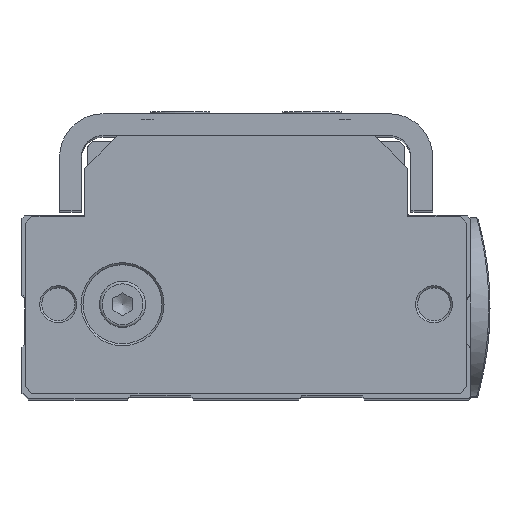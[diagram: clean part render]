
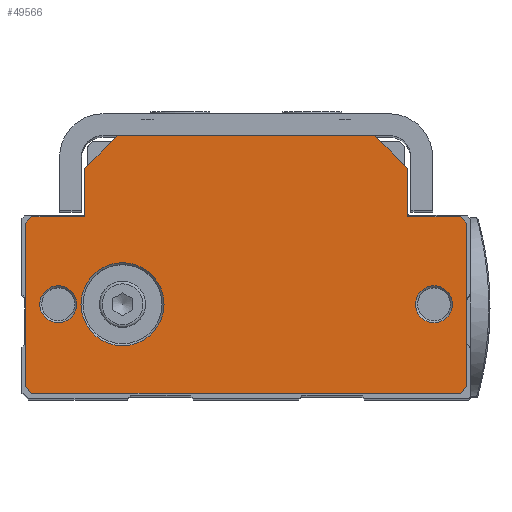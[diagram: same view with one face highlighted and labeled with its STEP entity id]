
A CAD part, top view. The second image highlights one B-rep face of the part: STEP entity #49566.
In plain terms, the highlighted planar face has unit normal (0, 0, 1).
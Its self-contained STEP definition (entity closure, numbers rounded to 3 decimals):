
#3969=FACE_BOUND('',#10539,.T.);
#3970=FACE_BOUND('',#10540,.T.);
#3971=FACE_BOUND('',#10541,.T.);
#5111=PLANE('',#54315);
#7667=FACE_OUTER_BOUND('',#10538,.T.);
#10538=EDGE_LOOP('',(#46175,#46176,#46177,#46178,#46179,#46180,#46181,#46182,
#46183,#46184,#46185,#46186,#46187,#46188));
#10539=EDGE_LOOP('',(#46189,#46190));
#10540=EDGE_LOOP('',(#46191,#46192));
#10541=EDGE_LOOP('',(#46193,#46194));
#14258=LINE('',#99717,#17994);
#14260=LINE('',#99721,#17996);
#14263=LINE('',#99727,#17999);
#14264=LINE('',#99729,#18000);
#14265=LINE('',#99731,#18001);
#14266=LINE('',#99733,#18002);
#14267=LINE('',#99735,#18003);
#14268=LINE('',#99737,#18004);
#14269=LINE('',#99739,#18005);
#14270=LINE('',#99741,#18006);
#14271=LINE('',#99743,#18007);
#14272=LINE('',#99745,#18008);
#14273=LINE('',#99747,#18009);
#14274=LINE('',#99748,#18010);
#17994=VECTOR('',#66730,10.);
#17996=VECTOR('',#66734,1000.);
#17999=VECTOR('',#66739,1000.);
#18000=VECTOR('',#66740,10.);
#18001=VECTOR('',#66741,1000.);
#18002=VECTOR('',#66742,1000.);
#18003=VECTOR('',#66743,1000.);
#18004=VECTOR('',#66744,1000.);
#18005=VECTOR('',#66745,1000.);
#18006=VECTOR('',#66746,1000.);
#18007=VECTOR('',#66747,1000.);
#18008=VECTOR('',#66748,1000.);
#18009=VECTOR('',#66749,1000.);
#18010=VECTOR('',#66750,1000.);
#20150=CIRCLE('',#54316,2.8);
#20151=CIRCLE('',#54317,2.8);
#20152=CIRCLE('',#54318,2.8);
#20153=CIRCLE('',#54319,2.8);
#20154=CIRCLE('',#54320,6.3);
#20155=CIRCLE('',#54321,6.3);
#24895=VERTEX_POINT('',#99714);
#24896=VERTEX_POINT('',#99716);
#24897=VERTEX_POINT('',#99720);
#24899=VERTEX_POINT('',#99726);
#24900=VERTEX_POINT('',#99728);
#24901=VERTEX_POINT('',#99730);
#24902=VERTEX_POINT('',#99732);
#24903=VERTEX_POINT('',#99734);
#24904=VERTEX_POINT('',#99736);
#24905=VERTEX_POINT('',#99738);
#24906=VERTEX_POINT('',#99740);
#24907=VERTEX_POINT('',#99742);
#24908=VERTEX_POINT('',#99744);
#24909=VERTEX_POINT('',#99746);
#24910=VERTEX_POINT('',#99749);
#24911=VERTEX_POINT('',#99750);
#24912=VERTEX_POINT('',#99753);
#24913=VERTEX_POINT('',#99754);
#24914=VERTEX_POINT('',#99757);
#24915=VERTEX_POINT('',#99758);
#32019=EDGE_CURVE('',#24895,#24896,#14258,.T.);
#32021=EDGE_CURVE('',#24896,#24897,#14260,.T.);
#32024=EDGE_CURVE('',#24895,#24899,#14263,.T.);
#32025=EDGE_CURVE('',#24900,#24899,#14264,.T.);
#32026=EDGE_CURVE('',#24901,#24900,#14265,.T.);
#32027=EDGE_CURVE('',#24902,#24901,#14266,.T.);
#32028=EDGE_CURVE('',#24902,#24903,#14267,.T.);
#32029=EDGE_CURVE('',#24903,#24904,#14268,.T.);
#32030=EDGE_CURVE('',#24904,#24905,#14269,.T.);
#32031=EDGE_CURVE('',#24906,#24905,#14270,.T.);
#32032=EDGE_CURVE('',#24906,#24907,#14271,.T.);
#32033=EDGE_CURVE('',#24907,#24908,#14272,.T.);
#32034=EDGE_CURVE('',#24908,#24909,#14273,.T.);
#32035=EDGE_CURVE('',#24897,#24909,#14274,.T.);
#32036=EDGE_CURVE('',#24910,#24911,#20150,.T.);
#32037=EDGE_CURVE('',#24911,#24910,#20151,.T.);
#32038=EDGE_CURVE('',#24912,#24913,#20152,.T.);
#32039=EDGE_CURVE('',#24913,#24912,#20153,.T.);
#32040=EDGE_CURVE('',#24914,#24915,#20154,.T.);
#32041=EDGE_CURVE('',#24915,#24914,#20155,.T.);
#46175=ORIENTED_EDGE('',*,*,#32019,.F.);
#46176=ORIENTED_EDGE('',*,*,#32024,.T.);
#46177=ORIENTED_EDGE('',*,*,#32025,.F.);
#46178=ORIENTED_EDGE('',*,*,#32026,.F.);
#46179=ORIENTED_EDGE('',*,*,#32027,.F.);
#46180=ORIENTED_EDGE('',*,*,#32028,.T.);
#46181=ORIENTED_EDGE('',*,*,#32029,.T.);
#46182=ORIENTED_EDGE('',*,*,#32030,.T.);
#46183=ORIENTED_EDGE('',*,*,#32031,.F.);
#46184=ORIENTED_EDGE('',*,*,#32032,.T.);
#46185=ORIENTED_EDGE('',*,*,#32033,.T.);
#46186=ORIENTED_EDGE('',*,*,#32034,.T.);
#46187=ORIENTED_EDGE('',*,*,#32035,.F.);
#46188=ORIENTED_EDGE('',*,*,#32021,.F.);
#46189=ORIENTED_EDGE('',*,*,#32036,.T.);
#46190=ORIENTED_EDGE('',*,*,#32037,.T.);
#46191=ORIENTED_EDGE('',*,*,#32038,.T.);
#46192=ORIENTED_EDGE('',*,*,#32039,.T.);
#46193=ORIENTED_EDGE('',*,*,#32040,.T.);
#46194=ORIENTED_EDGE('',*,*,#32041,.T.);
#49566=ADVANCED_FACE('',(#7667,#3969,#3970,#3971),#5111,.T.);
#54315=AXIS2_PLACEMENT_3D('',#99725,#66737,#66738);
#54316=AXIS2_PLACEMENT_3D('',#99751,#66751,#66752);
#54317=AXIS2_PLACEMENT_3D('',#99752,#66753,#66754);
#54318=AXIS2_PLACEMENT_3D('',#99755,#66755,#66756);
#54319=AXIS2_PLACEMENT_3D('',#99756,#66757,#66758);
#54320=AXIS2_PLACEMENT_3D('',#99759,#66759,#66760);
#54321=AXIS2_PLACEMENT_3D('',#99760,#66761,#66762);
#66730=DIRECTION('',(0.707,-0.707,0.));
#66734=DIRECTION('',(0.,-1.,0.));
#66737=DIRECTION('center_axis',(0.,0.,1.));
#66738=DIRECTION('ref_axis',(1.,0.,0.));
#66739=DIRECTION('',(-1.,0.,0.));
#66740=DIRECTION('',(0.707,0.707,0.));
#66741=DIRECTION('',(0.,1.,0.));
#66742=DIRECTION('',(1.,0.,0.));
#66743=DIRECTION('',(-0.707,-0.707,0.));
#66744=DIRECTION('',(0.,-1.,0.));
#66745=DIRECTION('',(0.707,-0.707,0.));
#66746=DIRECTION('',(-1.,0.,0.));
#66747=DIRECTION('',(0.707,0.707,0.));
#66748=DIRECTION('',(0.,1.,0.));
#66749=DIRECTION('',(-0.707,0.707,0.));
#66750=DIRECTION('',(1.,0.,0.));
#66751=DIRECTION('center_axis',(0.,0.,-1.));
#66752=DIRECTION('ref_axis',(1.,0.,0.));
#66753=DIRECTION('center_axis',(0.,0.,-1.));
#66754=DIRECTION('ref_axis',(1.,0.,0.));
#66755=DIRECTION('center_axis',(0.,0.,-1.));
#66756=DIRECTION('ref_axis',(1.,0.,0.));
#66757=DIRECTION('center_axis',(0.,0.,-1.));
#66758=DIRECTION('ref_axis',(1.,0.,0.));
#66759=DIRECTION('center_axis',(0.,0.,-1.));
#66760=DIRECTION('ref_axis',(1.,0.,0.));
#66761=DIRECTION('center_axis',(0.,0.,-1.));
#66762=DIRECTION('ref_axis',(1.,0.,0.));
#99714=CARTESIAN_POINT('',(19.5,19.575,0.));
#99716=CARTESIAN_POINT('',(24.5,14.575,0.));
#99717=CARTESIAN_POINT('',(20.769,18.306,0.));
#99720=CARTESIAN_POINT('',(24.5,7.275,0.));
#99721=CARTESIAN_POINT('',(24.5,20.025,0.));
#99725=CARTESIAN_POINT('Origin',(0.,0.,0.));
#99726=CARTESIAN_POINT('',(-19.5,19.575,0.));
#99727=CARTESIAN_POINT('',(-33.5,19.575,0.));
#99728=CARTESIAN_POINT('',(-24.5,14.575,0.));
#99729=CARTESIAN_POINT('',(-20.769,18.306,0.));
#99730=CARTESIAN_POINT('',(-24.5,7.275,0.));
#99731=CARTESIAN_POINT('',(-24.5,20.025,0.));
#99732=CARTESIAN_POINT('',(-32.5,7.275,0.));
#99733=CARTESIAN_POINT('',(-33.5,7.275,0.));
#99734=CARTESIAN_POINT('',(-33.5,6.275,0.));
#99735=CARTESIAN_POINT('',(-19.888,19.888,0.));
#99736=CARTESIAN_POINT('',(-33.5,-18.525,0.));
#99737=CARTESIAN_POINT('',(-33.5,20.025,0.));
#99738=CARTESIAN_POINT('',(-32.5,-19.525,0.));
#99739=CARTESIAN_POINT('',(-26.013,-26.012,0.));
#99740=CARTESIAN_POINT('',(32.5,-19.525,0.));
#99741=CARTESIAN_POINT('',(33.5,-19.525,0.));
#99742=CARTESIAN_POINT('',(33.5,-18.525,0.));
#99743=CARTESIAN_POINT('',(26.013,-26.012,0.));
#99744=CARTESIAN_POINT('',(33.5,6.275,0.));
#99745=CARTESIAN_POINT('',(33.5,20.025,0.));
#99746=CARTESIAN_POINT('',(32.5,7.275,0.));
#99747=CARTESIAN_POINT('',(19.888,19.888,0.));
#99748=CARTESIAN_POINT('',(33.5,7.275,0.));
#99749=CARTESIAN_POINT('',(31.3,-6.025,0.));
#99750=CARTESIAN_POINT('',(25.7,-6.025,0.));
#99751=CARTESIAN_POINT('Origin',(28.5,-6.025,0.));
#99752=CARTESIAN_POINT('Origin',(28.5,-6.025,0.));
#99753=CARTESIAN_POINT('',(-25.7,-6.025,0.));
#99754=CARTESIAN_POINT('',(-31.3,-6.025,0.));
#99755=CARTESIAN_POINT('Origin',(-28.5,-6.025,0.));
#99756=CARTESIAN_POINT('Origin',(-28.5,-6.025,0.));
#99757=CARTESIAN_POINT('',(-12.45,-6.025,0.));
#99758=CARTESIAN_POINT('',(-25.05,-6.025,0.));
#99759=CARTESIAN_POINT('Origin',(-18.75,-6.025,0.));
#99760=CARTESIAN_POINT('Origin',(-18.75,-6.025,0.));
